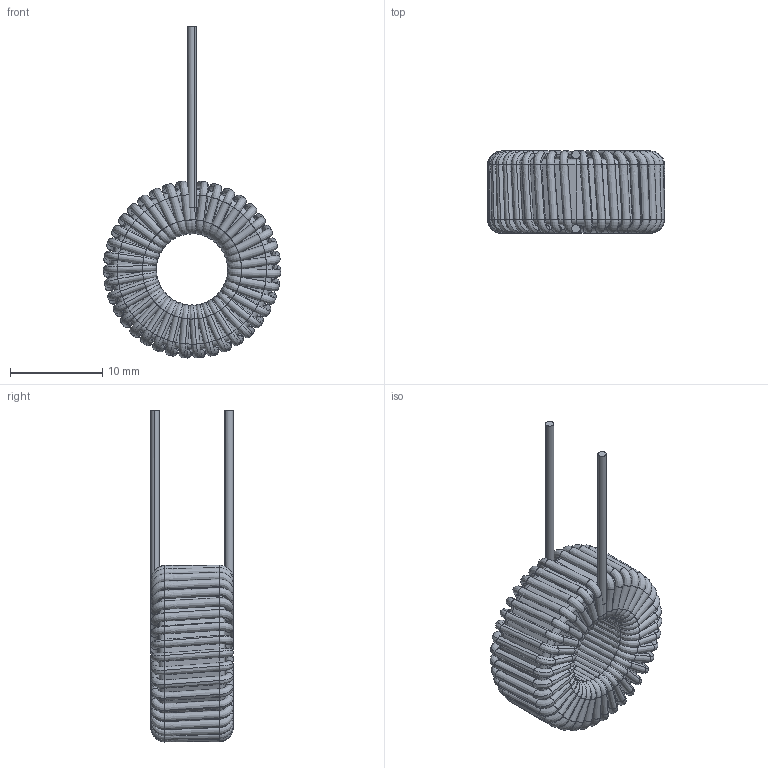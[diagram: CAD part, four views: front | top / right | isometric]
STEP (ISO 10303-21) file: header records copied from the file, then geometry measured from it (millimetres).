
FILE_DESCRIPTION (( 'STEP AP214' ), '1' );
FILE_NAME ('HF166-500M-4.8AV.STEP', '2020-07-18T16:02:09', ( '' ), ( '' ), 'SwSTEP 2.0', 'SolidWorks 2015', '' );
FILE_SCHEMA (( 'AUTOMOTIVE_DESIGN' ));
Length unit declared in the file: millimetre
Products named in the file (1): HF166-500M-4.8AV
Bounding box: 19.22 x 8.93 x 35.99 mm (x, y, z)
Volume: 1798 mm3; surface area: 3645.7 mm2
Topology: 2 solids, 2 shells, 640 faces, 1278 edges, 642 vertices
Faces by surface type: bspline 622, torus 8, cylinder 6, plane 4
Entity records: 62567 total; most frequent: CARTESIAN_POINT 45777, ORIENTED_EDGE 2556, DIRECTION 1336, EDGE_CURVE 1278, AXIS2_PLACEMENT_3D 665, CIRCLE 646, UNCERTAINTY_MEASURE_WITH_UNIT 644, MECHANICAL_DESIGN_GEOMETRIC_PRESENTATION_REPRESENTATION 643
